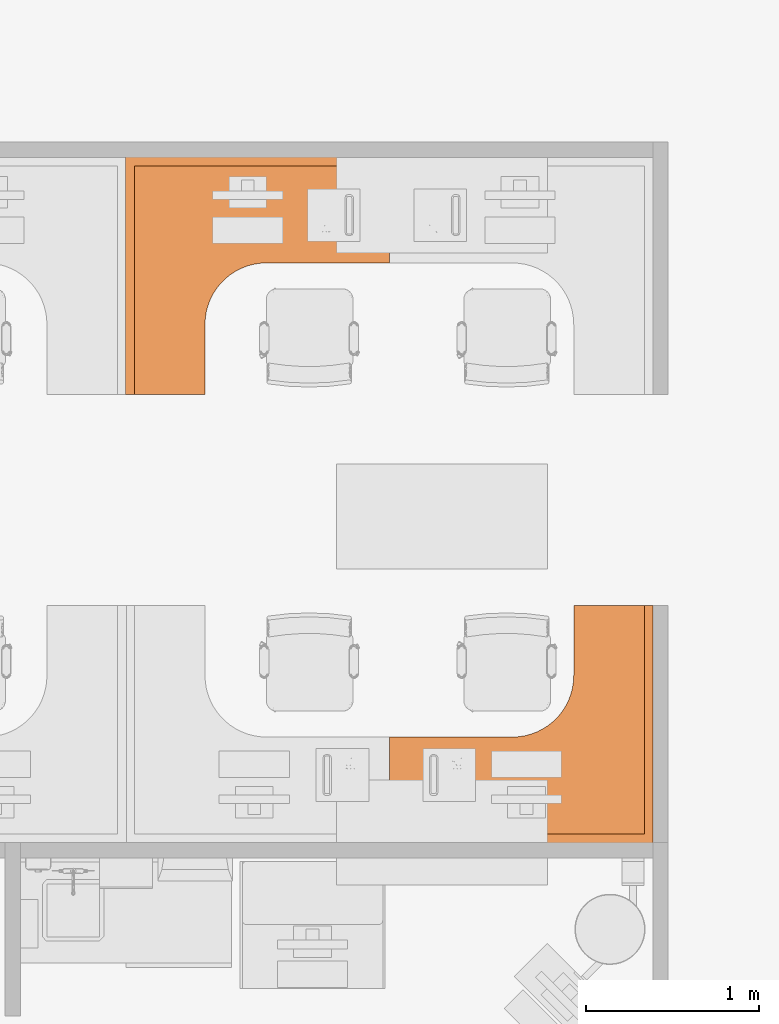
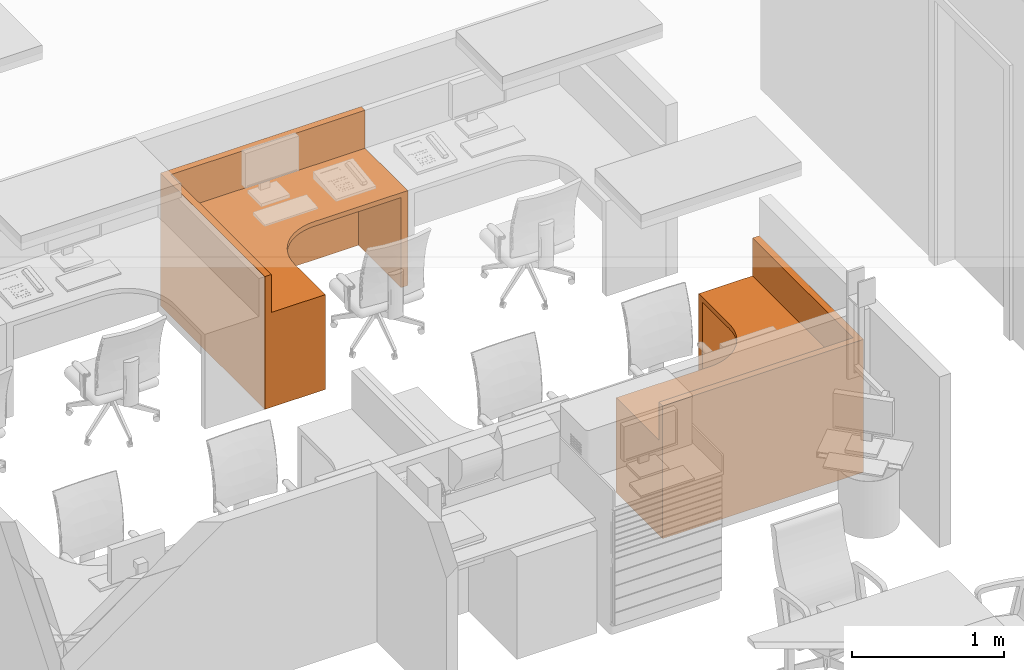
# One storey, part 64 of 142: 2 proxies.
"""IFC2X3 building model written with IfcOpenShell, lengths in feet."""

from ifc_helpers import new_model, entity, si_unit, converted_unit, derived_unit, direction, frame, frame_2d, origin, place, context, subcontext, project, spatial, polyline, circle_curve, parameter, trimmed, segment, composite_curve, rectangle, outline, extrude, source, transform, mapped, type_object, type_shapes, element, save


model = new_model("IFC2X3")

# Units and contexts
model_context = context("Model", 3, precision=0.0001, world=origin(), true_north=direction((6.12303176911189e-17, 1.0)))
body_context = subcontext(model_context, "Body", "Model", "MODEL_VIEW")
ifc_project = project(units=[converted_unit("LENGTHUNIT", "FOOT", entity("IfcRatioMeasure", 0.3048), si_unit("LENGTHUNIT", "METRE"), dimensions=[1, 0, 0, 0, 0, 0, 0]), converted_unit("AREAUNIT", "SQUARE FOOT", entity("IfcRatioMeasure", 0.09290304), si_unit("AREAUNIT", "SQUARE_METRE"), dimensions=[2, 0, 0, 0, 0, 0, 0]), converted_unit("VOLUMEUNIT", "CUBIC FOOT", entity("IfcRatioMeasure", 0.028316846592), si_unit("VOLUMEUNIT", "CUBIC_METRE"), dimensions=[3, 0, 0, 0, 0, 0, 0]), converted_unit("PLANEANGLEUNIT", "DEGREE", entity("IfcRatioMeasure", 0.0174532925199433), si_unit("PLANEANGLEUNIT", "RADIAN"), dimensions=[0, 0, 0, 0, 0, 0, 0]), si_unit("MASSUNIT", "GRAM", prefix="KILO"), derived_unit("MASSDENSITYUNIT", [(si_unit("MASSUNIT", "GRAM", prefix="KILO"), 1), (si_unit("LENGTHUNIT", "METRE"), -3)]), si_unit("TIMEUNIT", "SECOND"), si_unit("FREQUENCYUNIT", "HERTZ"), si_unit("THERMODYNAMICTEMPERATUREUNIT", "DEGREE_CELSIUS"), derived_unit("THERMALTRANSMITTANCEUNIT", [(si_unit("MASSUNIT", "GRAM", prefix="KILO"), 1), (si_unit("THERMODYNAMICTEMPERATUREUNIT", "KELVIN"), -1), (si_unit("TIMEUNIT", "SECOND"), -3)]), derived_unit("VOLUMETRICFLOWRATEUNIT", [(si_unit("LENGTHUNIT", "METRE"), 3), (si_unit("TIMEUNIT", "SECOND"), -1)]), si_unit("ELECTRICCURRENTUNIT", "AMPERE"), si_unit("ELECTRICVOLTAGEUNIT", "VOLT"), si_unit("POWERUNIT", "WATT"), si_unit("FORCEUNIT", "NEWTON"), si_unit("ILLUMINANCEUNIT", "LUX"), si_unit("LUMINOUSFLUXUNIT", "LUMEN"), si_unit("LUMINOUSINTENSITYUNIT", "CANDELA"), derived_unit("USERDEFINED", [(si_unit("MASSUNIT", "GRAM", prefix="KILO"), -1), (si_unit("LENGTHUNIT", "METRE"), -2), (si_unit("TIMEUNIT", "SECOND"), 3), (si_unit("LUMINOUSFLUXUNIT", "LUMEN"), 1)]), derived_unit("LINEARVELOCITYUNIT", [(si_unit("LENGTHUNIT", "METRE"), 1), (si_unit("TIMEUNIT", "SECOND"), -1)]), si_unit("PRESSUREUNIT", "PASCAL"), derived_unit("USERDEFINED", [(si_unit("LENGTHUNIT", "METRE"), -2), (si_unit("MASSUNIT", "GRAM", prefix="KILO"), 1), (si_unit("TIMEUNIT", "SECOND"), -2)])], contexts=[model_context])

# Site, building, storey, space
site_placement = place(None, origin())
site = spatial("IfcSite", under=ifc_project, at=site_placement, Name="Default", CompositionType="ELEMENT")
building_placement = place(site_placement, origin())
building = spatial("IfcBuilding", under=site, at=building_placement, Name="OUTPATIENT / PACT CLINIC (Ch. 265)", CompositionType="ELEMENT")
storey_placement = place(building_placement, origin())
storey = spatial("IfcBuildingStorey", under=building, at=storey_placement, Name="LEVEL 1", CompositionType="ELEMENT", Elevation=0.0)
space_placement = place(storey_placement, origin())
space = spatial("IfcSpace", under=storey, at=space_placement, Name="WRTM1", CompositionType="ELEMENT", InteriorOrExteriorSpace="INTERNAL")

# Proxies
building_element_proxy_type = type_object("IfcBuildingElementProxyType", Name="U0075 - Workstation, L-Shaped, Freestanding, 60x54", PredefinedType="NOTDEFINED")
shared_shape = source(origin(), body_context, "Body", "SweptSolid", [
    extrude(rectangle(XDim=2.0, YDim=0.166666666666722, at=frame_2d((-1.11022302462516e-16, -1.3836154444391e-14), x_axis=(1.0, 0.0))), frame((0.0833333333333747, 1.0, 0.0), z_axis=(0.0, 0.0, 1.0), x_axis=(0.0, 1.0, 0.0)), (0.0, 0.0, 1.0), 2.375),
    extrude(rectangle(XDim=1.5, YDim=0.166666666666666, at=frame_2d((-4.44089209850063e-16, 0.0), x_axis=(1.0, 0.0))), frame((4.25000000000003, 4.41666666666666, 0.0), z_axis=(0.0, 0.0, 1.0), x_axis=(-1.0, 0.0, 0.0)), (0.0, 0.0, 1.0), 2.37499999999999),
    extrude(outline(composite_curve([segment(polyline([(-2.3095238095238, -2.23809523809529), (2.19047619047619, -2.23809523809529)]), True, "CONTINUOUS"), segment(polyline([(2.19047619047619, -2.23809523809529), (2.19047619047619, -0.738095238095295)]), True, "CONTINUOUS"), segment(polyline([(2.19047619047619, -0.738095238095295), (0.857142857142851, -0.738095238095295)]), True, "CONTINUOUS"), segment(trimmed(circle_curve(frame_2d((0.857142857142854, 0.428571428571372), x_axis=(0.0, 1.0)), 1.16666666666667), [parameter(90.0)], [parameter(180.0)], True, "PARAMETER"), False, "CONTINUOUS"), segment(polyline([(-0.309523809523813, 0.428571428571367), (-0.309523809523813, 2.7619047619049)]), True, "CONTINUOUS"), segment(polyline([(-0.309523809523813, 2.7619047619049), (-2.3095238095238, 2.7619047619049)]), True, "CONTINUOUS"), segment(polyline([(-2.3095238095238, 2.7619047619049), (-2.3095238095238, -2.23809523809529)]), True, "CONTINUOUS")], self_intersect=False)), frame((2.76190476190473, 2.30952380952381, 2.37499999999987), z_axis=(0.0, 0.0, 1.0), x_axis=(0.0, 1.0, 0.0)), (0.0, 0.0, 1.0), 0.125),
    extrude(outline(polyline([(-2.16666666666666, -2.16666666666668), (2.33333333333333, -2.16666666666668), (2.33333333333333, -0.666666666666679), (-0.16666666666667, -0.666666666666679), (-0.16666666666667, 2.83333333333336), (-2.16666666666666, 2.83333333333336), (-2.16666666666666, -2.16666666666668)])), frame((2.83333333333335, 2.16666666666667, 2.37499999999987), z_axis=(0.0, 0.0, 1.0), x_axis=(0.0, 1.0, 0.0)), (0.0, 0.0, 1.0), 0.125),
    extrude(rectangle(XDim=0.166666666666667, YDim=5.00000000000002, at=frame_2d((2.77555756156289e-17, -2.22044604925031e-16), x_axis=(1.0, 0.0))), frame((2.49999999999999, 0.0750000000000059, 0.0), z_axis=(0.0, 0.0, 1.0), x_axis=(0.0, 1.0, 0.0)), (0.0, 0.0, 1.0), 3.5),
    extrude(rectangle(XDim=0.166666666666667, YDim=4.50000000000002, at=frame_2d((4.44089209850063e-16, 2.22044604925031e-16), x_axis=(1.0, 0.0))), frame((4.92500000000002, 2.25000000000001, 0.0), z_axis=(0.0, 0.0, 1.0), x_axis=(-1.0, 0.0, 0.0)), (0.0, 0.0, 1.0), 3.5),
])
type_shapes(building_element_proxy_type, [shared_shape])
proxy_1_placement = place(space_placement, frame((424.359283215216, -876.420519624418, 0.0), z_axis=(0.0, 0.0, 1.0), x_axis=(-1.0, 0.0, 0.0)))
element("IfcBuildingElementProxy", 1, at=proxy_1_placement, inside=space, type_object=building_element_proxy_type, Name="U0075 - Workstation, L-Shaped, Freestanding, 60x54:U0075 - Workstation, L-Shaped, Freestanding, 60x54", ObjectType="U0075 - Workstation, L-Shaped, Freestanding, 60x54", context=body_context, shape_type="MappedRepresentation", body=[
    mapped(shared_shape, transform((0.0, 0.0, 0.0), scale=1.0)),
])
proxy_2_placement = place(space_placement, frame((424.359283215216, -889.420491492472, 0.0)))
element("IfcBuildingElementProxy", 2, at=proxy_2_placement, inside=space, type_object=building_element_proxy_type, Name="U0075 - Workstation, L-Shaped, Freestanding, 60x54:U0075 - Workstation, L-Shaped, Freestanding, 60x54", ObjectType="U0075 - Workstation, L-Shaped, Freestanding, 60x54", context=body_context, shape_type="MappedRepresentation", body=[
    mapped(shared_shape, transform((0.0, 0.0, 0.0), scale=1.0)),
])

save(model, "model.ifc")
